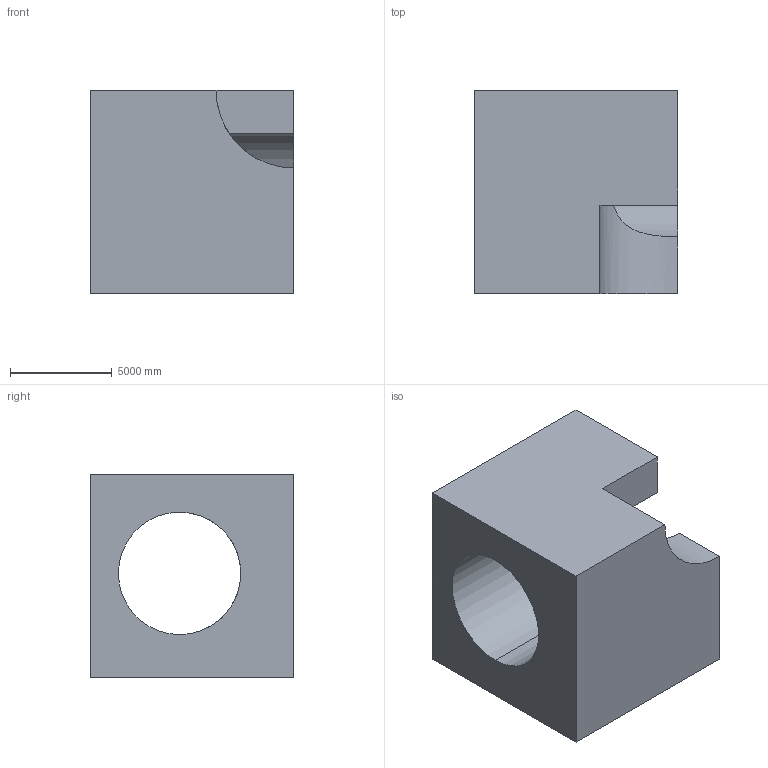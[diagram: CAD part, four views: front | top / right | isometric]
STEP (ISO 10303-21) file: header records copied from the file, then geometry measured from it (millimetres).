
FILE_DESCRIPTION (( 'STEP AP203' ), '1' );
FILE_NAME ('1063.STEP', '2022-08-18T12:36:59', ( 'user' ), ( '' ), 'SwSTEP 2.0', 'SolidWorks 2021', '' );
FILE_SCHEMA (( 'CONFIG_CONTROL_DESIGN' ));
Length unit declared in the file: centimetre
Products named in the file (1): 1063
Bounding box: 10000 x 10000 x 10000 mm (x, y, z)
Volume: 668887565201.4 mm3; surface area: 713051480.2 mm2
Topology: 1 solids, 1 shells, 10 faces, 27 edges, 18 vertices
Faces by surface type: plane 7, cylinder 3
Entity records: 482 total; most frequent: CARTESIAN_POINT 141, DIRECTION 55, ORIENTED_EDGE 54, EDGE_CURVE 27, LINE 19, VECTOR 19, AXIS2_PLACEMENT_3D 18, VERTEX_POINT 18
